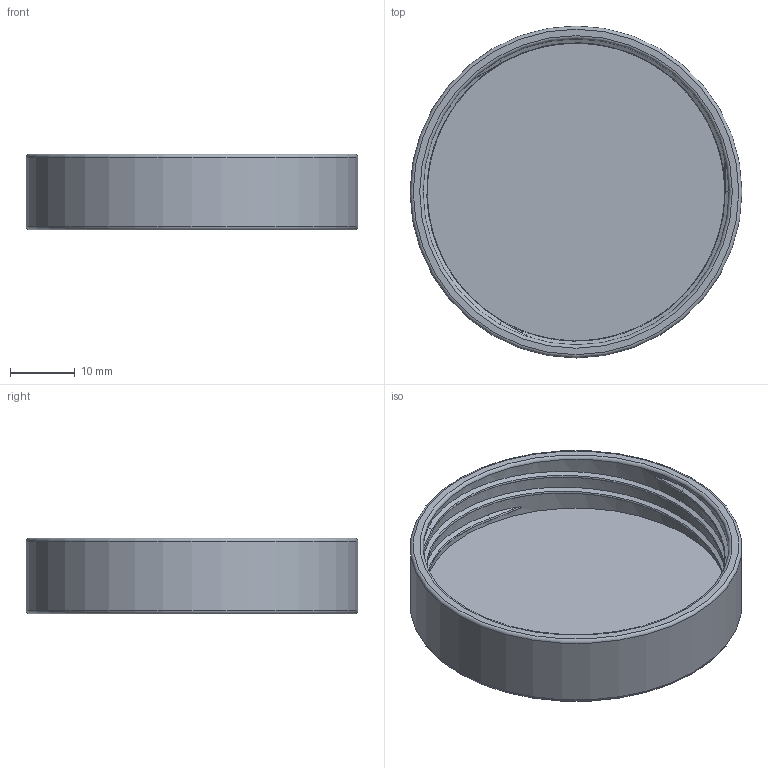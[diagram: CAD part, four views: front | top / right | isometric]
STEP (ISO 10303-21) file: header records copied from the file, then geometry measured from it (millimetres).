
FILE_DESCRIPTION(/* description */ (''),/* implementation_level */ '2;1');
FILE_NAME(/* name */ 'Tree-Top Apple Juice Lid 1gal.step',/* time_stamp */ '2023-11-24T18:55:57-07:00',/* author */ (''),/* organization */ (''),/* preprocessor_version */ 'ST-DEVELOPER v20',/* originating_system */ 'Autodesk Translation Framework v12.14.0.127',/* authorisation */ '');
FILE_SCHEMA (('AUTOMOTIVE_DESIGN { 1 0 10303 214 3 1 1 }'));
Length unit declared in the file: millimetre
Products named in the file (1): Parameterized Bottle Cap
Bounding box: 51.45 x 51.45 x 11.75 mm (x, y, z)
Volume: 7322.2 mm3; surface area: 7682.6 mm2
Topology: 1 solids, 1 shells, 35 faces, 85 edges, 54 vertices
Faces by surface type: plane 15, bspline 15, torus 3, cylinder 2
Full cylindrical faces by diameter (mm): 47.45 x1, 51.45 x1
Entity records: 2351 total; most frequent: CARTESIAN_POINT 1588, ORIENTED_EDGE 170, DIRECTION 116, EDGE_CURVE 85, VERTEX_POINT 54, AXIS2_PLACEMENT_3D 44, EDGE_LOOP 37, FACE_OUTER_BOUND 35
